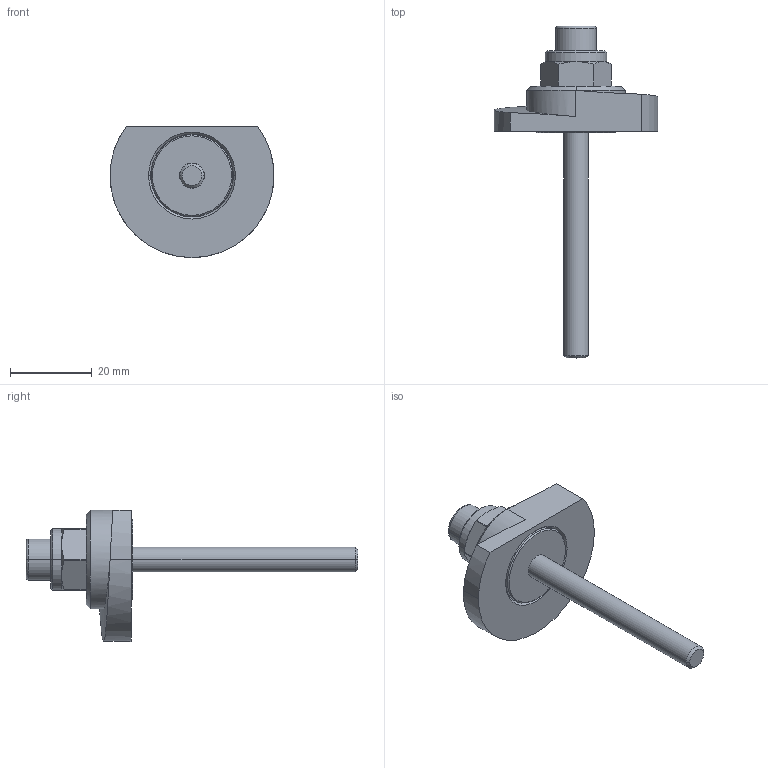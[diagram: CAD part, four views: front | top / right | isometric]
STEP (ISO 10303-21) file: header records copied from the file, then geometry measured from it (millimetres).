
FILE_DESCRIPTION (( 'STEP AP214' ), '1' );
FILE_NAME ('918.1-40-SKS-L-55.step', '2024-05-15T13:00:55', ( '' ), ( '' ), 'SwSTEP 2.0', 'SolidWorks 2022', '' );
FILE_SCHEMA (( 'AUTOMOTIVE_DESIGN' ));
Length unit declared in the file: millimetre
Products named in the file (1): 918.1-40-SKS-L-55
Bounding box: 40 x 81 x 32 mm (x, y, z)
Volume: 12505.1 mm3; surface area: 7245.2 mm2
Topology: 1 solids, 2 shells, 80 faces, 179 edges, 112 vertices
Faces by surface type: cylinder 27, plane 26, cone 22, bspline 3, torus 2
Entity records: 2599 total; most frequent: CARTESIAN_POINT 777, DIRECTION 390, ORIENTED_EDGE 358, EDGE_CURVE 179, AXIS2_PLACEMENT_3D 157, VERTEX_POINT 112, EDGE_LOOP 91, ADVANCED_FACE 80
